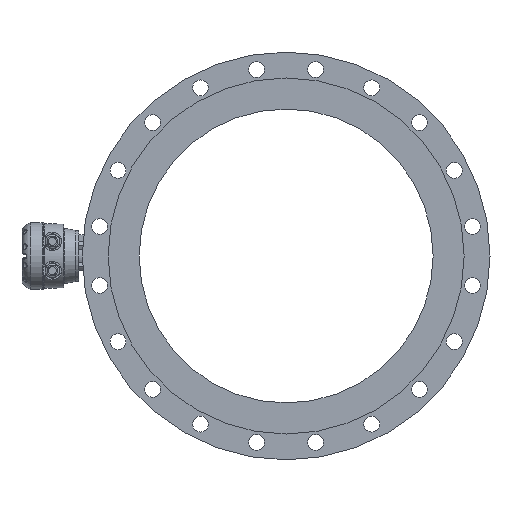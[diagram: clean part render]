
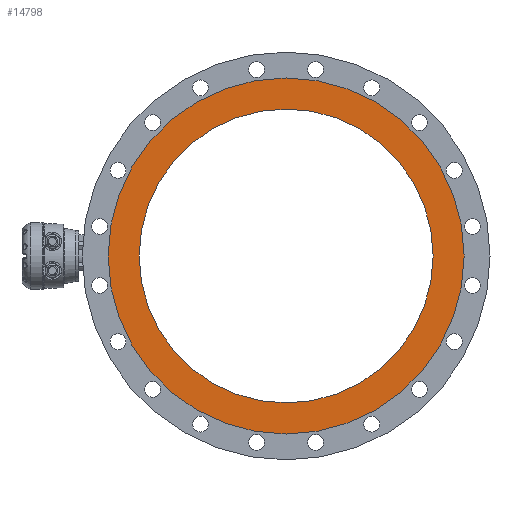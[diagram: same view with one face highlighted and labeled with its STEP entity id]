
A CAD part, left-side view. The second image highlights one B-rep face of the part: STEP entity #14798.
In plain terms, the highlighted planar face has unit normal (-1, 0, 0).
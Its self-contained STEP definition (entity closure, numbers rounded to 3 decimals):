
#4061 = ORIENTED_EDGE ( 'NONE', *, *, #6566, .T. ) ;
#4062 = ORIENTED_EDGE ( 'NONE', *, *, #8810, .T. ) ;
#4690 = CIRCLE ( 'NONE', #9513, 241.5 ) ;
#4760 = CIRCLE ( 'NONE', #9537, 292.5 ) ;
#5493 = CARTESIAN_POINT ( 'NONE',  ( -294.805, -334.517, -10.543 ) ) ;
#5508 = DIRECTION ( 'NONE',  ( 1., 0., 0. ) ) ;
#5510 = DIRECTION ( 'NONE',  ( 0., 0., -1. ) ) ;
#5634 = CARTESIAN_POINT ( 'NONE',  ( -294.805, -334.517, -10.543 ) ) ;
#5647 = DIRECTION ( 'NONE',  ( -1., 0., 0. ) ) ;
#5648 = DIRECTION ( 'NONE',  ( 0., 0., 1. ) ) ;
#6566 = EDGE_CURVE ( 'NONE', #8585, #8585, #4690, .T. ) ;
#6571 = EDGE_LOOP ( 'NONE', ( #4062 ) ) ;
#8328 = PLANE ( 'NONE',  #9991 ) ;
#8331 = CARTESIAN_POINT ( 'NONE',  ( -294.805, -93.017, -10.543 ) ) ;
#8337 = DIRECTION ( 'NONE',  ( -1., 0., 0. ) ) ;
#8338 = DIRECTION ( 'NONE',  ( 0., 0., 1. ) ) ;
#8585 = VERTEX_POINT ( 'NONE', #8586 ) ;
#8586 = CARTESIAN_POINT ( 'NONE',  ( -294.805, -334.517, -252.043 ) ) ;
#8633 = VERTEX_POINT ( 'NONE', #8634 ) ;
#8634 = CARTESIAN_POINT ( 'NONE',  ( -294.805, -334.517, 281.957 ) ) ;
#8810 = EDGE_CURVE ( 'NONE', #8633, #8633, #4760, .T. ) ;
#9513 = AXIS2_PLACEMENT_3D ( 'NONE', #5493, #5508, #5510 ) ;
#9537 = AXIS2_PLACEMENT_3D ( 'NONE', #5634, #5647, #5648 ) ;
#9991 = AXIS2_PLACEMENT_3D ( 'NONE', #8331, #8337, #8338 ) ;
#10522 = EDGE_LOOP ( 'NONE', ( #4061 ) ) ;
#14399 = FACE_OUTER_BOUND ( 'NONE', #6571, .T. ) ;
#14400 = FACE_BOUND ( 'NONE', #10522, .T. ) ;
#14798 = ADVANCED_FACE ( 'NONE', ( #14400, #14399 ), #8328, .T. ) ;
